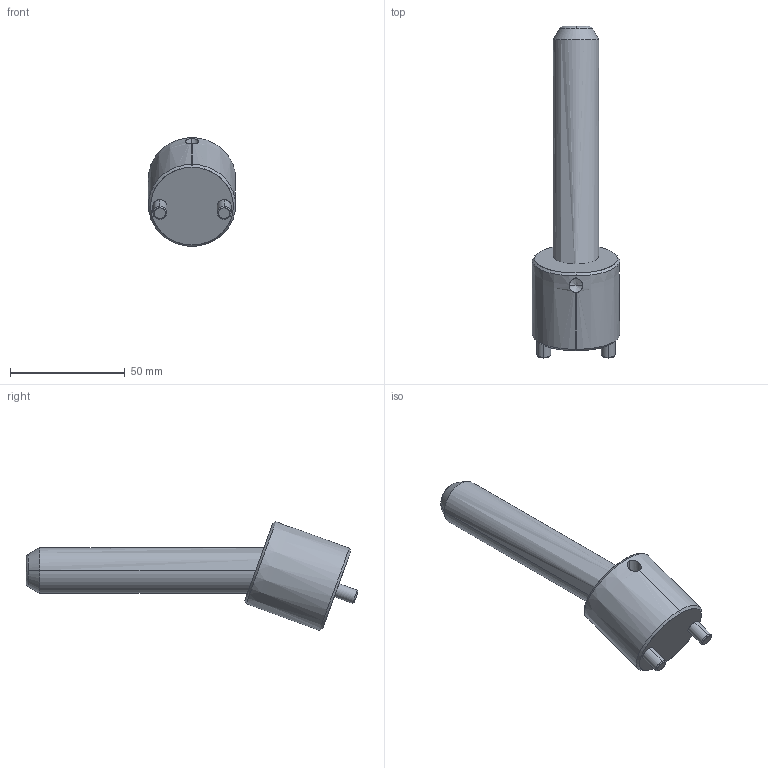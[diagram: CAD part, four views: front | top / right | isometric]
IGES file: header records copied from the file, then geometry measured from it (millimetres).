
Start section: SolidWorks IGES file using analytic representation for surfaces
Global section: file name: D:\Current\W1\Data\CI2020100\CI2020100.IGS; native system: SolidWorks 2017; preprocessor: SolidWorks 2017; author: Ravi Kalvai; date: 231207.180736; units: millimetre
Bounding box: 38 x 144.51 x 47.34 mm (x, y, z)
Surface area: 17412.5 mm2 (no closed solid volume)
Topology: 0 solids, 0 shells, 37 faces, 734 edges, 732 vertices
Faces by surface type: revolution 28, bspline 9
